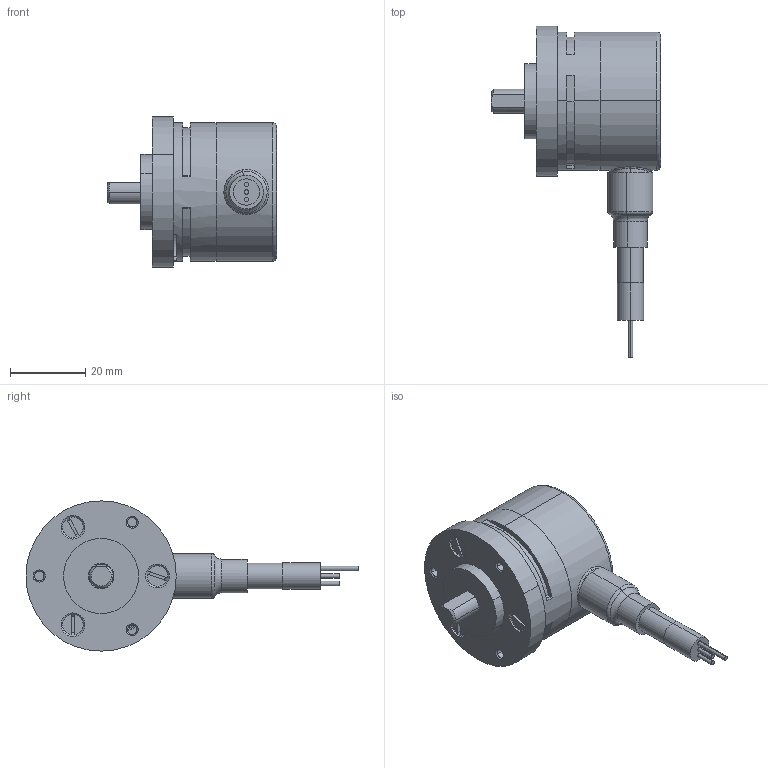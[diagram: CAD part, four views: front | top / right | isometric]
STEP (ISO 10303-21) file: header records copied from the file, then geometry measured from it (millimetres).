
FILE_DESCRIPTION (( 'STEP AP214' ), '1' );
FILE_NAME ('3700.A4X2.XXXX.STEP', '2008-11-25T08:44:22', ( 'admin' ), ( 'Fritz Kübler GmbH' ), 'SwSTEP 2.0', 'SolidWorks 2008', '' );
FILE_SCHEMA (( 'AUTOMOTIVE_DESIGN' ));
Length unit declared in the file: millimetre
Products named in the file (1): 3700.A4X2.XXXX
Bounding box: 45 x 88.4 x 40 mm (x, y, z)
Volume: 21176.7 mm3; surface area: 20898.9 mm2
Topology: 9 solids, 9 shells, 575 faces, 1361 edges, 822 vertices
Faces by surface type: cylinder 241, plane 140, torus 92, cone 48, bspline 29, sphere 25
Entity records: 24294 total; most frequent: CARTESIAN_POINT 4577, DIRECTION 3003, ORIENTED_EDGE 2676, EDGE_CURVE 1338, AXIS2_PLACEMENT_3D 1274, VERTEX_POINT 812, CIRCLE 727, EDGE_LOOP 626
